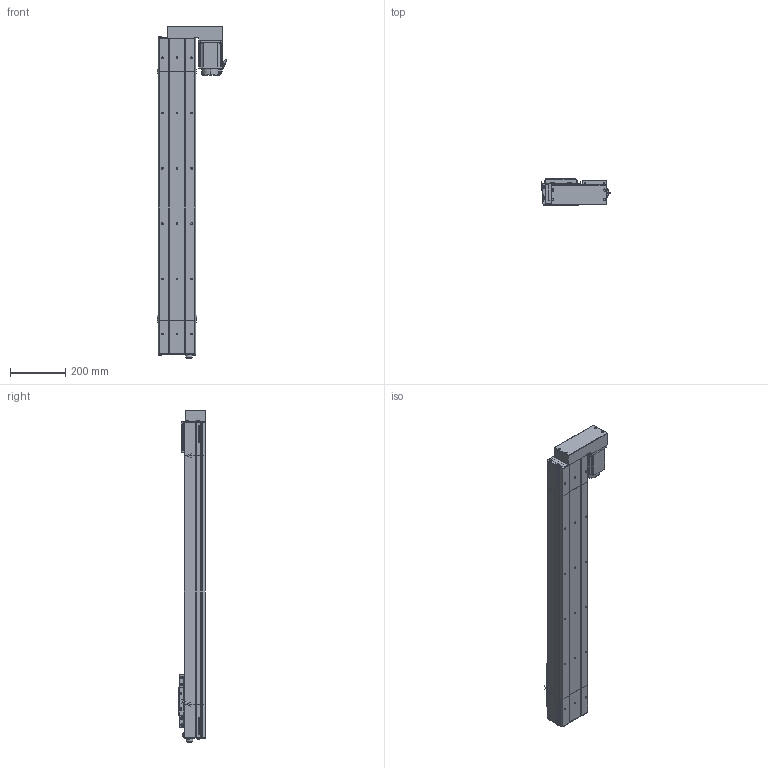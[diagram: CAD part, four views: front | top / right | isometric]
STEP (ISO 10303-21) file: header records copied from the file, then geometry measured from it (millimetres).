
FILE_DESCRIPTION (( 'STEP AP214' ), '1' );
FILE_NAME ('D14 CSH BL S900.STEP', '2010-06-29T15:23:04', ( 'Conseil Régional Haute-Normandie' ), ( 'Conseil Régional Haute-Normandie' ), 'SwSTEP 2.0', 'SolidWorks 2010', '' );
FILE_SCHEMA (( 'AUTOMOTIVE_DESIGN' ));
Length unit declared in the file: millimetre
Products named in the file (26): Head D14 CSH BL; couvercle head d14; GMB 90 100 310; Conecteur2_Default; avant GMB 90 100 310; corps GMB 90 100 310; plaque de bout head D14 BL; D14 CSH BL S900; course CSH S900; vis CHC M5.5; Conecteur_Default; corps head d14; codeur GMB 90 100 310; corps  CSH 900; couvercle CSH course S900; charriot inférieur D14; chariot D14; plaque de maintient D14; corps tail d14; Tail D14; vis CHC M5; couvercle tail; vis CHC M7; plaque de bout tail d14; chariot supérieur D14; Vis CHC M8
Assembly tree (48 placements, depth 4):
  D14 CSH BL S900
    Tail D14
      vis CHC M7  x4
      plaque de maintient D14
      couvercle tail
      Vis CHC M8  x2
      plaque de bout tail d14
      corps tail d14
    Head D14 CSH BL
      vis CHC M5.5  x4
      plaque de maintient D14
      corps head d14
      Vis CHC M8  x2
      vis CHC M7  x2
      plaque de bout head D14 BL
      GMB 90 100 310
        avant GMB 90 100 310
        Conecteur2_Default
        codeur GMB 90 100 310
        Conecteur_Default
        corps GMB 90 100 310
      couvercle head d14
    course CSH S900
      couvercle CSH course S900
      corps  CSH 900
    chariot D14
      chariot supérieur D14
      vis CHC M5  x4
      vis CHC M7  x8
      charriot inférieur D14
Bounding box: 250.75 x 95.75 x 1201.3 mm (x, y, z)
Volume: 4487322.4 mm3; surface area: 1293976.6 mm2
Topology: 49 solids, 49 shells, 2444 faces, 6287 edges, 4142 vertices
Faces by surface type: plane 1375, bspline 538, cylinder 418, torus 61, cone 52
Entity records: 107552 total; most frequent: CARTESIAN_POINT 57987, ORIENTED_EDGE 10826, DIRECTION 8096, EDGE_CURVE 5413, LINE 3642, VECTOR 3642, VERTEX_POINT 3590, EDGE_LOOP 2311
